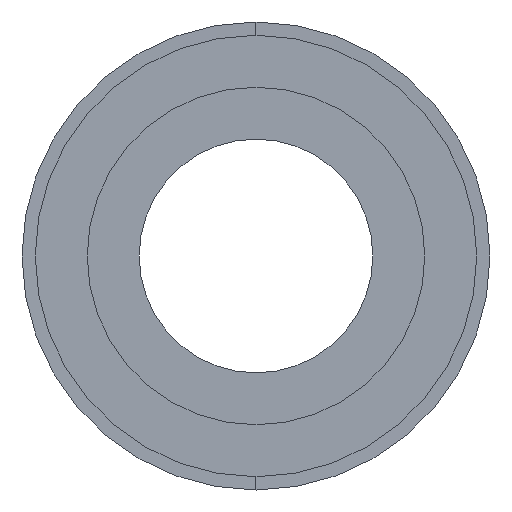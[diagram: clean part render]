
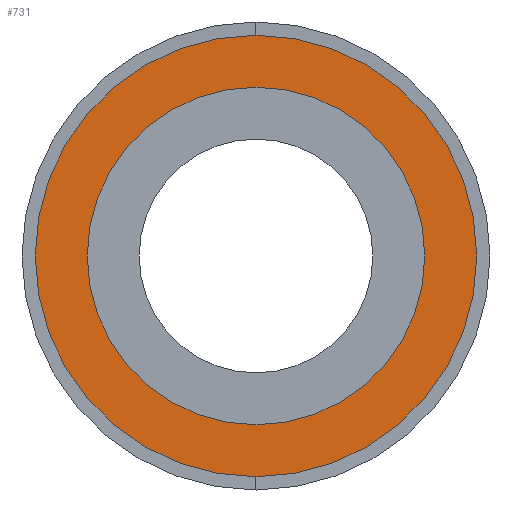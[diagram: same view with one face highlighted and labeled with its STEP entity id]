
A CAD part, left-side view. The second image highlights one B-rep face of the part: STEP entity #731.
In plain terms, the highlighted planar face has unit normal (-1, 0, 0).
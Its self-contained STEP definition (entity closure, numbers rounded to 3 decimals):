
#3 = DIRECTION ( 'NONE',  ( 0., 0., 1. ) ) ;
#107 = VERTEX_POINT ( 'NONE', #543 ) ;
#117 = DIRECTION ( 'NONE',  ( -1., 0., 0. ) ) ;
#129 = ORIENTED_EDGE ( 'NONE', *, *, #864, .T. ) ;
#135 = ORIENTED_EDGE ( 'NONE', *, *, #1009, .F. ) ;
#192 = CARTESIAN_POINT ( 'NONE',  ( 4., 0., 8.5 ) ) ;
#217 = PLANE ( 'NONE',  #512 ) ;
#220 = CARTESIAN_POINT ( 'NONE',  ( 4., 0., 0. ) ) ;
#246 = CARTESIAN_POINT ( 'NONE',  ( 4., 0., -6.5 ) ) ;
#305 = DIRECTION ( 'NONE',  ( 0., 0., 1. ) ) ;
#309 = DIRECTION ( 'NONE',  ( 0., 0., -1. ) ) ;
#321 = ORIENTED_EDGE ( 'NONE', *, *, #1010, .T. ) ;
#361 = CIRCLE ( 'NONE', #461, 6.5 ) ;
#392 = FACE_OUTER_BOUND ( 'NONE', #999, .T. ) ;
#431 = DIRECTION ( 'NONE',  ( -1., 0., 0. ) ) ;
#461 = AXIS2_PLACEMENT_3D ( 'NONE', #790, #636, #3 ) ;
#480 = DIRECTION ( 'NONE',  ( 1., 0., 0. ) ) ;
#512 = AXIS2_PLACEMENT_3D ( 'NONE', #1023, #480, #309 ) ;
#543 = CARTESIAN_POINT ( 'NONE',  ( 4., 0., 6.5 ) ) ;
#574 = CIRCLE ( 'NONE', #650, 6.5 ) ;
#599 = CARTESIAN_POINT ( 'NONE',  ( 4., 0., 0. ) ) ;
#602 = AXIS2_PLACEMENT_3D ( 'NONE', #599, #117, #676 ) ;
#617 = DIRECTION ( 'NONE',  ( -1., 0., 0. ) ) ;
#636 = DIRECTION ( 'NONE',  ( -1., 0., 0. ) ) ;
#650 = AXIS2_PLACEMENT_3D ( 'NONE', #912, #431, #992 ) ;
#658 = EDGE_LOOP ( 'NONE', ( #1019, #135 ) ) ;
#676 = DIRECTION ( 'NONE',  ( 0., 0., 1. ) ) ;
#731 = ADVANCED_FACE ( 'NONE', ( #789, #392 ), #217, .F. ) ;
#741 = EDGE_CURVE ( 'NONE', #107, #898, #361, .T. ) ;
#745 = CARTESIAN_POINT ( 'NONE',  ( 4., 0., -8.5 ) ) ;
#754 = CIRCLE ( 'NONE', #602, 8.5 ) ;
#789 = FACE_BOUND ( 'NONE', #658, .T. ) ;
#790 = CARTESIAN_POINT ( 'NONE',  ( 4., 0., 0. ) ) ;
#864 = EDGE_CURVE ( 'NONE', #1016, #959, #952, .T. ) ;
#882 = AXIS2_PLACEMENT_3D ( 'NONE', #220, #617, #305 ) ;
#898 = VERTEX_POINT ( 'NONE', #246 ) ;
#912 = CARTESIAN_POINT ( 'NONE',  ( 4., 0., 0. ) ) ;
#952 = CIRCLE ( 'NONE', #882, 8.5 ) ;
#959 = VERTEX_POINT ( 'NONE', #745 ) ;
#992 = DIRECTION ( 'NONE',  ( 0., 0., 1. ) ) ;
#999 = EDGE_LOOP ( 'NONE', ( #129, #321 ) ) ;
#1009 = EDGE_CURVE ( 'NONE', #898, #107, #574, .T. ) ;
#1010 = EDGE_CURVE ( 'NONE', #959, #1016, #754, .T. ) ;
#1016 = VERTEX_POINT ( 'NONE', #192 ) ;
#1019 = ORIENTED_EDGE ( 'NONE', *, *, #741, .F. ) ;
#1023 = CARTESIAN_POINT ( 'NONE',  ( 4., 6.5, 0. ) ) ;
